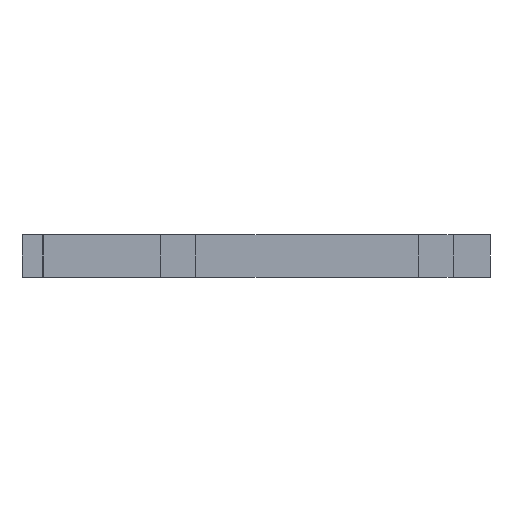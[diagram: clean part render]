
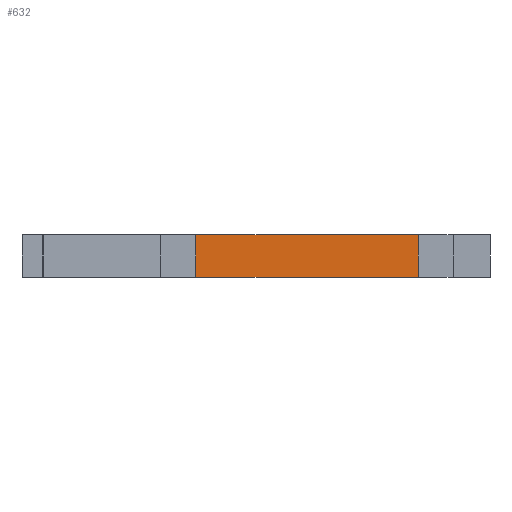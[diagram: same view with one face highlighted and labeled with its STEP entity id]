
A CAD part, left-side view. The second image highlights one B-rep face of the part: STEP entity #632.
In plain terms, the highlighted planar face has unit normal (-1, 0, 0).
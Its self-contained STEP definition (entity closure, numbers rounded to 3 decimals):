
#1 = PLANE ( 'NONE',  #412 ) ;
#57 = VECTOR ( 'NONE', #1279, 1000. ) ;
#70 = EDGE_LOOP ( 'NONE', ( #1606, #1301, #1197, #1734 ) ) ;
#99 = LINE ( 'NONE', #1198, #1627 ) ;
#104 = VERTEX_POINT ( 'NONE', #206 ) ;
#106 = EDGE_CURVE ( 'NONE', #104, #1499, #168, .T. ) ;
#168 = LINE ( 'NONE', #1728, #1010 ) ;
#206 = CARTESIAN_POINT ( 'NONE',  ( -234., -40.5, 10. ) ) ;
#235 = DIRECTION ( 'NONE',  ( 0., 0., -1. ) ) ;
#254 = LINE ( 'NONE', #602, #1519 ) ;
#270 = CARTESIAN_POINT ( 'NONE',  ( -234., -92.3, 10. ) ) ;
#284 = CARTESIAN_POINT ( 'NONE',  ( -234., -92.3, 10. ) ) ;
#412 = AXIS2_PLACEMENT_3D ( 'NONE', #270, #564, #1500 ) ;
#421 = LINE ( 'NONE', #603, #57 ) ;
#564 = DIRECTION ( 'NONE',  ( 1., 0., 0. ) ) ;
#602 = CARTESIAN_POINT ( 'NONE',  ( -234., -92.3, 10. ) ) ;
#603 = CARTESIAN_POINT ( 'NONE',  ( -234., -92.3, 0. ) ) ;
#609 = VERTEX_POINT ( 'NONE', #284 ) ;
#632 = ADVANCED_FACE ( 'NONE', ( #1383 ), #1, .F. ) ;
#711 = CARTESIAN_POINT ( 'NONE',  ( -234., -40.5, 0. ) ) ;
#836 = EDGE_CURVE ( 'NONE', #104, #609, #254, .T. ) ;
#874 = CARTESIAN_POINT ( 'NONE',  ( -234., -92.3, 0. ) ) ;
#876 = EDGE_CURVE ( 'NONE', #609, #1719, #99, .T. ) ;
#1010 = VECTOR ( 'NONE', #235, 1000. ) ;
#1197 = ORIENTED_EDGE ( 'NONE', *, *, #836, .F. ) ;
#1198 = CARTESIAN_POINT ( 'NONE',  ( -234., -92.3, 10. ) ) ;
#1279 = DIRECTION ( 'NONE',  ( 0., -1., 0. ) ) ;
#1301 = ORIENTED_EDGE ( 'NONE', *, *, #876, .F. ) ;
#1383 = FACE_OUTER_BOUND ( 'NONE', #70, .T. ) ;
#1466 = DIRECTION ( 'NONE',  ( 0., 0., -1. ) ) ;
#1499 = VERTEX_POINT ( 'NONE', #711 ) ;
#1500 = DIRECTION ( 'NONE',  ( 0., 0., -1. ) ) ;
#1519 = VECTOR ( 'NONE', #1773, 1000. ) ;
#1606 = ORIENTED_EDGE ( 'NONE', *, *, #1626, .T. ) ;
#1626 = EDGE_CURVE ( 'NONE', #1499, #1719, #421, .T. ) ;
#1627 = VECTOR ( 'NONE', #1466, 1000. ) ;
#1719 = VERTEX_POINT ( 'NONE', #874 ) ;
#1728 = CARTESIAN_POINT ( 'NONE',  ( -234., -40.5, 10. ) ) ;
#1734 = ORIENTED_EDGE ( 'NONE', *, *, #106, .T. ) ;
#1773 = DIRECTION ( 'NONE',  ( 0., -1., 0. ) ) ;
